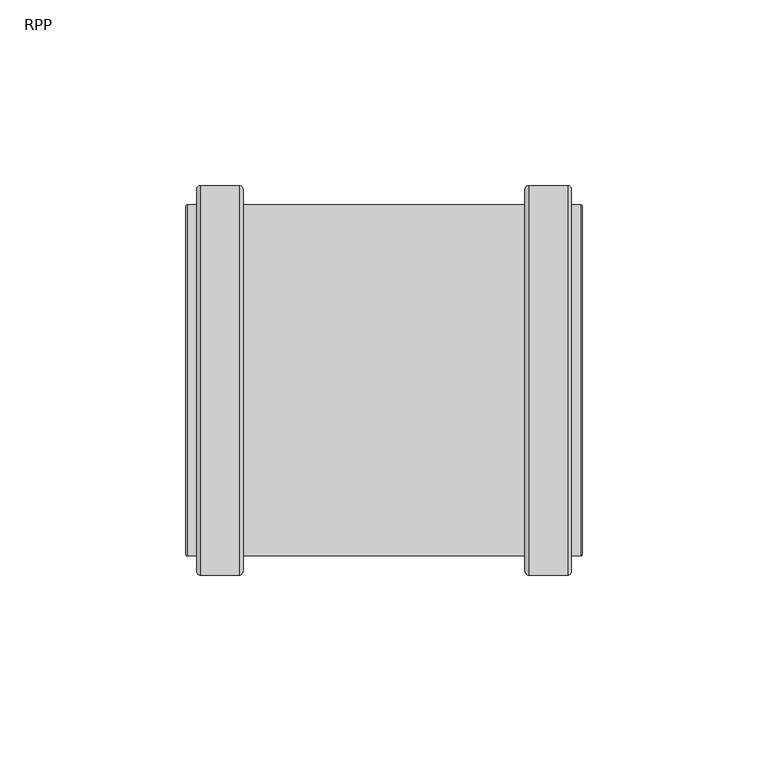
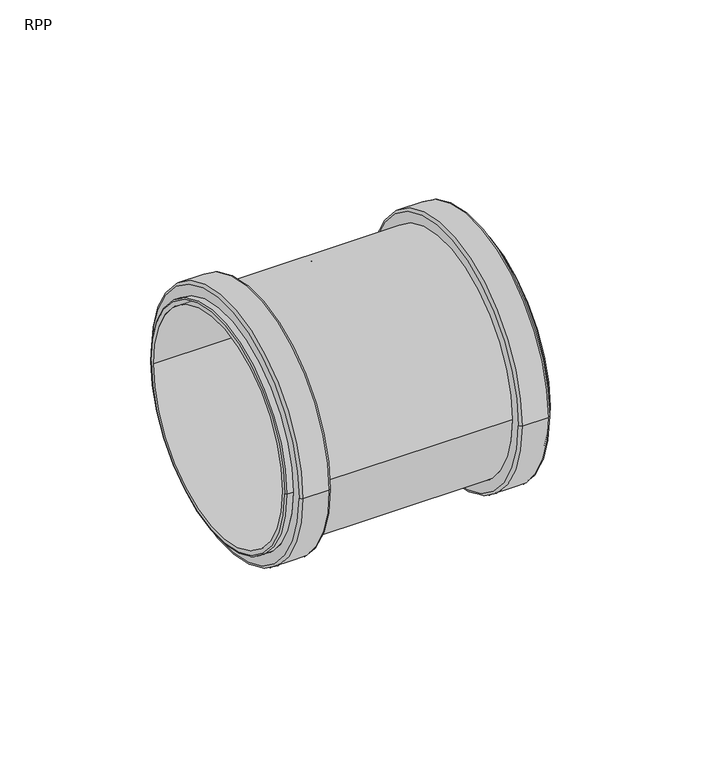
"""IFC4 building model written with IfcOpenShell, lengths in millimetres: pipe fitting geometry, RAUPIANO PLUS Double socket : RPP."""

from ifc_helpers import new_model, si_unit, point, frame, origin, place, context, project, spatial, polyline, circle_curve, ellipse_curve, trimmed, source, transform, mapped, element, save
from ifc_brep_helpers import plane_surface, cylinder_surface, revolved_surface, advanced_brep


def rpp_cbc30ce8(model_context):
    return source(origin(), model_context, "Body", "AdvancedBrep", [
        advanced_brep(
        [(-49.5, 52.5, 0.0), (-49.5, -52.5, 0.0), (-50.5, -51.5, 0.0), (-50.5, 51.5, 0.0), (-39.0, 52.5, 0.0), (-39.0, -52.5, 0.0), (-38.0, 51.5, 0.0), (-38.0, -51.5, 0.0), (38.0, 47.3, 0.0), (38.0, -47.3, 0.0), (-38.0, -47.3, 0.0), (-38.0, 47.3, 0.0), (39.0, 52.5, 0.0), (39.0, -52.5, 0.0), (38.0, -51.5, 0.0), (38.0, 51.5, 0.0), (49.5, 52.5, 0.0), (49.5, -52.5, 0.0), (50.5, 51.5, 0.0), (50.5, -51.5, 0.0), (53.0, 47.3, 0.0), (53.0, -47.3, 0.0), (50.5, -47.3, 0.0), (50.5, 47.3, 0.0), (53.5, 46.8, 0.0), (53.5, -46.8, 0.0), (1.0, 45.0, 0.0), (1.0, -45.0, 0.0), (53.5, -45.0, 0.0), (53.5, 45.0, 0.0), (-1.0, 42.69828, 0.0), (-1.0, -42.69828, 0.0), (1.0, -42.69828, 0.0), (1.0, 42.69828, 0.0), (-53.5, 45.0, 0.0), (-53.5, -45.0, 0.0), (-1.0, -45.0, 0.0), (-1.0, 45.0, 0.0), (-53.0, 47.3, 0.0), (-53.0, -47.3, 0.0), (-53.5, -46.8, 0.0), (-53.5, 46.8, 0.0), (-50.5, 47.3, 0.0), (-50.5, -47.3, 0.0)],
        [
            (0, 1, circle_curve(frame((-49.5, 0.0, 0.0), z_axis=(-1.0, 0.0, 0.0), x_axis=(0.0, -1.0, 0.0)), 52.5)),
            (1, 2, circle_curve(frame((-49.5, -51.5, 0.0), z_axis=(0.0, 0.0, -1.0), x_axis=(1.0, 0.0, 0.0)), 1.0)),
            (2, 3, circle_curve(frame((-50.5, 0.0, 0.0), z_axis=(1.0, 0.0, 0.0), x_axis=(0.0, -1.0, 0.0)), 51.5)),
            (3, 0, circle_curve(frame((-49.5, 51.5, 0.0), z_axis=(0.0, 0.0, -1.0), x_axis=(1.0, 0.0, 0.0)), 1.0)),
            (4, 5, circle_curve(frame((-39.0, 0.0, 0.0), z_axis=(-1.0, 0.0, 0.0), x_axis=(0.0, -1.0, 0.0)), 52.5)),
            (5, 1),
            (0, 4),
            (6, 7, circle_curve(frame((-38.0, 0.0, 0.0), z_axis=(-1.0, 0.0, 0.0), x_axis=(0.0, -1.0, 0.0)), 51.5)),
            (7, 5, circle_curve(frame((-39.0, -51.5, 0.0), z_axis=(0.0, 0.0, -1.0), x_axis=(1.0, 0.0, 0.0)), 1.0)),
            (4, 6, circle_curve(frame((-39.0, 51.5, 0.0), z_axis=(0.0, 0.0, -1.0), x_axis=(1.0, 0.0, 0.0)), 1.0)),
            (8, 9, circle_curve(frame((38.0, 0.0, 0.0), z_axis=(-1.0, 0.0, 0.0), x_axis=(0.0, -1.0, 0.0)), 47.3)),
            (9, 10),
            (10, 11, circle_curve(frame((-38.0, 0.0, 0.0), z_axis=(1.0, 0.0, 0.0), x_axis=(0.0, -1.0, 0.0)), 47.3)),
            (11, 8),
            (12, 13, circle_curve(frame((39.0, 0.0, 0.0), z_axis=(-1.0, 0.0, 0.0), x_axis=(0.0, -1.0, 0.0)), 52.5)),
            (13, 14, circle_curve(frame((39.0, -51.5, 0.0), z_axis=(0.0, 0.0, -1.0), x_axis=(1.0, 0.0, 0.0)), 1.0)),
            (14, 15, circle_curve(frame((38.0, 0.0, 0.0), z_axis=(1.0, 0.0, 0.0), x_axis=(0.0, -1.0, 0.0)), 51.5)),
            (15, 12, circle_curve(frame((39.0, 51.5, 0.0), z_axis=(0.0, 0.0, -1.0), x_axis=(1.0, 0.0, 0.0)), 1.0)),
            (16, 17, circle_curve(frame((49.5, 0.0, 0.0), z_axis=(-1.0, 0.0, 0.0), x_axis=(0.0, -1.0, 0.0)), 52.5)),
            (17, 13),
            (12, 16),
            (18, 19, circle_curve(frame((50.5, 0.0, 0.0), z_axis=(-1.0, 0.0, 0.0), x_axis=(0.0, -1.0, 0.0)), 51.5)),
            (19, 17, circle_curve(frame((49.5, -51.5, 0.0), z_axis=(0.0, 0.0, -1.0), x_axis=(1.0, 0.0, 0.0)), 1.0)),
            (16, 18, circle_curve(frame((49.5, 51.5, 0.0), z_axis=(0.0, 0.0, -1.0), x_axis=(1.0, 0.0, 0.0)), 1.0)),
            (20, 21, circle_curve(frame((53.0, 0.0, 0.0), z_axis=(-1.0, 0.0, 0.0), x_axis=(0.0, -1.0, 0.0)), 47.3)),
            (21, 22),
            (22, 23, circle_curve(frame((50.5, 0.0, 0.0), z_axis=(1.0, 0.0, 0.0), x_axis=(0.0, -1.0, 0.0)), 47.3)),
            (23, 20),
            (24, 25, circle_curve(frame((53.5, 0.0, 0.0), z_axis=(-1.0, 0.0, 0.0), x_axis=(0.0, -1.0, 0.0)), 46.8)),
            (25, 21, circle_curve(frame((53.0, -46.8, 0.0), z_axis=(0.0, 0.0, -1.0), x_axis=(1.0, 0.0, 0.0)), 0.5)),
            (20, 24, circle_curve(frame((53.0, 46.8, 0.0), z_axis=(0.0, 0.0, -1.0), x_axis=(1.0, 0.0, 0.0)), 0.5)),
            (26, 27, circle_curve(frame((1.0, 0.0, 0.0), z_axis=(-1.0, 0.0, 0.0), x_axis=(0.0, -1.0, 0.0)), 45.0)),
            (27, 28),
            (28, 29, circle_curve(frame((53.5, 0.0, 0.0), z_axis=(1.0, 0.0, 0.0), x_axis=(0.0, -1.0, 0.0)), 45.0)),
            (29, 26),
            (30, 31, circle_curve(frame((-1.0, 0.0, 0.0), z_axis=(-1.0, 0.0, 0.0), x_axis=(0.0, -1.0, 0.0)), 42.69828)),
            (31, 32),
            (32, 33, circle_curve(frame((1.0, 0.0, 0.0), z_axis=(1.0, 0.0, 0.0), x_axis=(0.0, -1.0, 0.0)), 42.69828)),
            (33, 30),
            (34, 35, circle_curve(frame((-53.5, 0.0, 0.0), z_axis=(-1.0, 0.0, 0.0), x_axis=(0.0, -1.0, 0.0)), 45.0)),
            (35, 36),
            (36, 37, circle_curve(frame((-1.0, 0.0, 0.0), z_axis=(1.0, 0.0, 0.0), x_axis=(0.0, -1.0, 0.0)), 45.0)),
            (37, 34),
            (38, 39, circle_curve(frame((-53.0, 0.0, 0.0), z_axis=(-1.0, 0.0, 0.0), x_axis=(0.0, -1.0, 0.0)), 47.3)),
            (39, 40, circle_curve(frame((-53.0, -46.8, 0.0), z_axis=(0.0, 0.0, -1.0), x_axis=(1.0, 0.0, 0.0)), 0.5)),
            (40, 41, circle_curve(frame((-53.5, 0.0, 0.0), z_axis=(1.0, 0.0, 0.0), x_axis=(0.0, -1.0, 0.0)), 46.8)),
            (41, 38, circle_curve(frame((-53.0, 46.8, 0.0), z_axis=(0.0, 0.0, -1.0), x_axis=(1.0, 0.0, 0.0)), 0.5)),
            (42, 43, circle_curve(frame((-50.5, 0.0, 0.0), z_axis=(-1.0, 0.0, 0.0), x_axis=(0.0, -1.0, 0.0)), 47.3)),
            (43, 39),
            (38, 42),
            (2, 3, circle_curve(frame((-50.5, 0.0, 0.0), z_axis=(-1.0, 0.0, 0.0), x_axis=(0.0, 1.0, 0.0)), 51.5)),
            (42, 43, circle_curve(frame((-50.5, 0.0, 0.0), z_axis=(1.0, 0.0, 0.0), x_axis=(0.0, 1.0, 0.0)), 47.3)),
            (1, 0, circle_curve(frame((-49.5, 0.0, 0.0), z_axis=(-1.0, 0.0, 0.0), x_axis=(0.0, 1.0, 0.0)), 52.5)),
            (5, 4, circle_curve(frame((-39.0, 0.0, 0.0), z_axis=(-1.0, 0.0, 0.0), x_axis=(0.0, 1.0, 0.0)), 52.5)),
            (7, 6, circle_curve(frame((-38.0, 0.0, 0.0), z_axis=(-1.0, 0.0, 0.0), x_axis=(0.0, 1.0, 0.0)), 51.5)),
            (10, 11, circle_curve(frame((-38.0, 0.0, 0.0), z_axis=(-1.0, 0.0, 0.0), x_axis=(0.0, 1.0, 0.0)), 47.3)),
            (9, 8, circle_curve(frame((38.0, 0.0, 0.0), z_axis=(-1.0, 0.0, 0.0), x_axis=(0.0, 1.0, 0.0)), 47.3)),
            (14, 15, circle_curve(frame((38.0, 0.0, 0.0), z_axis=(-1.0, 0.0, 0.0), x_axis=(0.0, 1.0, 0.0)), 51.5)),
            (13, 12, circle_curve(frame((39.0, 0.0, 0.0), z_axis=(-1.0, 0.0, 0.0), x_axis=(0.0, 1.0, 0.0)), 52.5)),
            (17, 16, circle_curve(frame((49.5, 0.0, 0.0), z_axis=(-1.0, 0.0, 0.0), x_axis=(0.0, 1.0, 0.0)), 52.5)),
            (19, 18, circle_curve(frame((50.5, 0.0, 0.0), z_axis=(-1.0, 0.0, 0.0), x_axis=(0.0, 1.0, 0.0)), 51.5)),
            (22, 23, circle_curve(frame((50.5, 0.0, 0.0), z_axis=(-1.0, 0.0, 0.0), x_axis=(0.0, 1.0, 0.0)), 47.3)),
            (21, 20, circle_curve(frame((53.0, 0.0, 0.0), z_axis=(-1.0, 0.0, 0.0), x_axis=(0.0, 1.0, 0.0)), 47.3)),
            (25, 24, circle_curve(frame((53.5, 0.0, 0.0), z_axis=(-1.0, 0.0, 0.0), x_axis=(0.0, 1.0, 0.0)), 46.8)),
            (28, 29, circle_curve(frame((53.5, 0.0, 0.0), z_axis=(-1.0, 0.0, 0.0), x_axis=(0.0, 1.0, 0.0)), 45.0)),
            (27, 26, circle_curve(frame((1.0, 0.0, 0.0), z_axis=(-1.0, 0.0, 0.0), x_axis=(0.0, 1.0, 0.0)), 45.0)),
            (32, 33, circle_curve(frame((1.0, 0.0, 0.0), z_axis=(-1.0, 0.0, 0.0), x_axis=(0.0, 1.0, 0.0)), 42.69828)),
            (31, 30, circle_curve(frame((-1.0, 0.0, 0.0), z_axis=(-1.0, 0.0, 0.0), x_axis=(0.0, 1.0, 0.0)), 42.69828)),
            (36, 37, circle_curve(frame((-1.0, 0.0, 0.0), z_axis=(-1.0, 0.0, 0.0), x_axis=(0.0, 1.0, 0.0)), 45.0)),
            (35, 34, circle_curve(frame((-53.5, 0.0, 0.0), z_axis=(-1.0, 0.0, 0.0), x_axis=(0.0, 1.0, 0.0)), 45.0)),
            (40, 41, circle_curve(frame((-53.5, 0.0, 0.0), z_axis=(-1.0, 0.0, 0.0), x_axis=(0.0, 1.0, 0.0)), 46.8)),
            (39, 38, circle_curve(frame((-53.0, 0.0, 0.0), z_axis=(-1.0, 0.0, 0.0), x_axis=(0.0, 1.0, 0.0)), 47.3)),
        ],
        [
            revolved_surface(trimmed(ellipse_curve(frame((-49.5, -51.5, 0.0), z_axis=(0.0, 0.0, 1.0), x_axis=(1.0, 0.0, 0.0)), 1.0, 1.0), [point((-50.5, -51.5, 0.0))], [point((-49.5, -52.5, 0.0))], True, "CARTESIAN"), (0.0, 0.0, 0.0), (1.0, 0.0, 0.0)),
            cylinder_surface(frame((0.0, 0.0, 0.0), z_axis=(1.0, 0.0, 0.0), x_axis=(0.0, -1.0, 0.0)), 52.5),
            revolved_surface(trimmed(ellipse_curve(frame((-39.0, -51.5, 0.0), z_axis=(0.0, 0.0, 1.0), x_axis=(1.0, 0.0, 0.0)), 1.0, 1.0), [point((-39.0, -52.5, 0.0))], [point((-38.0, -51.5, 0.0))], True, "CARTESIAN"), (0.0, 0.0, 0.0), (1.0, 0.0, 0.0)),
            cylinder_surface(frame((0.0, 0.0, 0.0), z_axis=(1.0, 0.0, 0.0), x_axis=(0.0, -1.0, 0.0)), 47.3),
            revolved_surface(trimmed(ellipse_curve(frame((39.0, -51.5, 0.0), z_axis=(0.0, 0.0, 1.0), x_axis=(1.0, 0.0, 0.0)), 1.0, 1.0), [point((38.0, -51.5, 0.0))], [point((39.0, -52.5, 0.0))], True, "CARTESIAN"), (0.0, 0.0, 0.0), (1.0, 0.0, 0.0)),
            revolved_surface(trimmed(ellipse_curve(frame((49.5, -51.5, 0.0), z_axis=(0.0, 0.0, 1.0), x_axis=(1.0, 0.0, 0.0)), 1.0, 1.0), [point((49.5, -52.5, 0.0))], [point((50.5, -51.5, 0.0))], True, "CARTESIAN"), (0.0, 0.0, 0.0), (1.0, 0.0, 0.0)),
            revolved_surface(trimmed(ellipse_curve(frame((53.0, -46.8, 0.0), z_axis=(0.0, 0.0, 1.0), x_axis=(1.0, 0.0, 0.0)), 0.5, 0.5), [point((53.0, -47.3, 0.0))], [point((53.5, -46.8, 0.0))], True, "CARTESIAN"), (0.0, 0.0, 0.0), (1.0, 0.0, 0.0)),
            revolved_surface(polyline([(53.5, -45.0, 0.0), (1.0, -45.0, 0.0)]), (0.0, 0.0, 0.0), (1.0, 0.0, 0.0)),
            revolved_surface(polyline([(1.0, -42.69828, 0.0), (-1.0, -42.69828, 0.0)]), (0.0, 0.0, 0.0), (1.0, 0.0, 0.0)),
            revolved_surface(polyline([(-1.0, -45.0, 0.0), (-53.5, -45.0, 0.0)]), (0.0, 0.0, 0.0), (1.0, 0.0, 0.0)),
            revolved_surface(trimmed(ellipse_curve(frame((-53.0, -46.8, 0.0), z_axis=(0.0, 0.0, 1.0), x_axis=(1.0, 0.0, 0.0)), 0.5, 0.5), [point((-53.5, -46.8, 0.0))], [point((-53.0, -47.3, 0.0))], True, "CARTESIAN"), (0.0, 0.0, 0.0), (1.0, 0.0, 0.0)),
            plane_surface(frame((-50.5, 0.0, 0.0), z_axis=(-1.0, 0.0, 0.0), x_axis=(0.0, 1.0, 0.0))),
            revolved_surface(trimmed(ellipse_curve(frame((-49.5, 51.5, 0.0), z_axis=(0.0, 0.0, -1.0), x_axis=(1.0, 0.0, 0.0)), 1.0, 1.0), [point((-50.5, 51.5, 0.0))], [point((-49.5, 52.5, 0.0))], True, "CARTESIAN"), (0.0, 0.0, 0.0), (1.0, 0.0, 0.0)),
            cylinder_surface(frame((0.0, 0.0, 0.0), z_axis=(1.0, 0.0, 0.0), x_axis=(0.0, 1.0, 0.0)), 52.5),
            revolved_surface(trimmed(ellipse_curve(frame((-39.0, 51.5, 0.0), z_axis=(0.0, 0.0, -1.0), x_axis=(1.0, 0.0, 0.0)), 1.0, 1.0), [point((-39.0, 52.5, 0.0))], [point((-38.0, 51.5, 0.0))], True, "CARTESIAN"), (0.0, 0.0, 0.0), (1.0, 0.0, 0.0)),
            plane_surface(frame((-38.0, 0.0, 0.0), z_axis=(1.0, 0.0, 0.0), x_axis=(0.0, 1.0, 0.0))),
            cylinder_surface(frame((0.0, 0.0, 0.0), z_axis=(1.0, 0.0, 0.0), x_axis=(0.0, 1.0, 0.0)), 47.3),
            plane_surface(frame((38.0, 0.0, 0.0), z_axis=(-1.0, 0.0, 0.0), x_axis=(0.0, 1.0, 0.0))),
            revolved_surface(trimmed(ellipse_curve(frame((39.0, 51.5, 0.0), z_axis=(0.0, 0.0, -1.0), x_axis=(1.0, 0.0, 0.0)), 1.0, 1.0), [point((38.0, 51.5, 0.0))], [point((39.0, 52.5, 0.0))], True, "CARTESIAN"), (0.0, 0.0, 0.0), (1.0, 0.0, 0.0)),
            revolved_surface(trimmed(ellipse_curve(frame((49.5, 51.5, 0.0), z_axis=(0.0, 0.0, -1.0), x_axis=(1.0, 0.0, 0.0)), 1.0, 1.0), [point((49.5, 52.5, 0.0))], [point((50.5, 51.5, 0.0))], True, "CARTESIAN"), (0.0, 0.0, 0.0), (1.0, 0.0, 0.0)),
            plane_surface(frame((50.5, 0.0, 0.0), z_axis=(1.0, 0.0, 0.0), x_axis=(0.0, 1.0, 0.0))),
            revolved_surface(trimmed(ellipse_curve(frame((53.0, 46.8, 0.0), z_axis=(0.0, 0.0, -1.0), x_axis=(1.0, 0.0, 0.0)), 0.5, 0.5), [point((53.0, 47.3, 0.0))], [point((53.5, 46.8, 0.0))], True, "CARTESIAN"), (0.0, 0.0, 0.0), (1.0, 0.0, 0.0)),
            plane_surface(frame((53.5, 0.0, 0.0), z_axis=(1.0, 0.0, 0.0), x_axis=(0.0, 1.0, 0.0))),
            revolved_surface(polyline([(53.5, 45.0, 0.0), (1.0, 45.0, 0.0)]), (0.0, 0.0, 0.0), (1.0, 0.0, 0.0)),
            plane_surface(frame((1.0, 0.0, 0.0), z_axis=(1.0, 0.0, 0.0), x_axis=(0.0, 1.0, 0.0))),
            revolved_surface(polyline([(1.0, 42.69828, 0.0), (-1.0, 42.69828, 0.0)]), (0.0, 0.0, 0.0), (1.0, 0.0, 0.0)),
            plane_surface(frame((-1.0, 0.0, 0.0), z_axis=(-1.0, 0.0, 0.0), x_axis=(0.0, 1.0, 0.0))),
            revolved_surface(polyline([(-1.0, 45.0, 0.0), (-53.5, 45.0, 0.0)]), (0.0, 0.0, 0.0), (1.0, 0.0, 0.0)),
            plane_surface(frame((-53.5, 0.0, 0.0), z_axis=(-1.0, 0.0, 0.0), x_axis=(0.0, 1.0, 0.0))),
            revolved_surface(trimmed(ellipse_curve(frame((-53.0, 46.8, 0.0), z_axis=(0.0, 0.0, -1.0), x_axis=(1.0, 0.0, 0.0)), 0.5, 0.5), [point((-53.5, 46.8, 0.0))], [point((-53.0, 47.3, 0.0))], True, "CARTESIAN"), (0.0, 0.0, 0.0), (1.0, 0.0, 0.0)),
        ],
        [
            (0, [[1, 2, 3, 4]]),
            (1, [[5, 6, -1, 7]]),
            (2, [[8, 9, -5, 10]]),
            (3, [[11, 12, 13, 14]]),
            (4, [[15, 16, 17, 18]]),
            (1, [[19, 20, -15, 21]]),
            (5, [[22, 23, -19, 24]]),
            (3, [[25, 26, 27, 28]]),
            (6, [[29, 30, -25, 31]]),
            (7, [[32, 33, 34, 35]]),
            (8, [[36, 37, 38, 39]]),
            (9, [[40, 41, 42, 43]]),
            (10, [[44, 45, 46, 47]]),
            (3, [[48, 49, -44, 50]]),
            (11, [[51, -3], [52, -48]]),
            (12, [[53, -4, -51, -2]]),
            (13, [[54, -7, -53, -6]]),
            (14, [[55, -10, -54, -9]]),
            (15, [[-55, -8], [56, -13]]),
            (16, [[57, -14, -56, -12]]),
            (17, [[58, -17], [-57, -11]]),
            (18, [[59, -18, -58, -16]]),
            (13, [[60, -21, -59, -20]]),
            (19, [[61, -24, -60, -23]]),
            (20, [[-61, -22], [62, -27]]),
            (16, [[63, -28, -62, -26]]),
            (21, [[64, -31, -63, -30]]),
            (22, [[-64, -29], [65, -34]]),
            (23, [[66, -35, -65, -33]]),
            (24, [[-66, -32], [67, -38]]),
            (25, [[68, -39, -67, -37]]),
            (26, [[69, -42], [-68, -36]]),
            (27, [[70, -43, -69, -41]]),
            (28, [[71, -46], [-70, -40]]),
            (29, [[72, -47, -71, -45]]),
            (16, [[-52, -50, -72, -49]]),
        ],
    ),
    ])


if __name__ == "__main__":
    model = new_model("IFC4")
    model_context = context("Model", 3, world=origin())
    ifc_project = project(units=[si_unit("LENGTHUNIT", "METRE", prefix="MILLI")], contexts=[model_context])
    site = spatial("IfcSite", under=ifc_project)
    building = spatial("IfcBuilding", under=site)
    placement = place(None, origin())
    rpp_shape = rpp_cbc30ce8(model_context)
    element("IfcPipeFitting", 1, ObjectType="RAUPIANO PLUS Double socket : RPP", at=placement, inside=building, context=model_context, shape_type="MappedRepresentation", body=[
        mapped(rpp_shape, transform((0.0, 0.0, 0.0), x_axis=(1.0, 0.0, 0.0), y_axis=(0.0, 1.0, 0.0), z_axis=(0.0, 0.0, 1.0))),
    ])
    save(model, "model.ifc")
